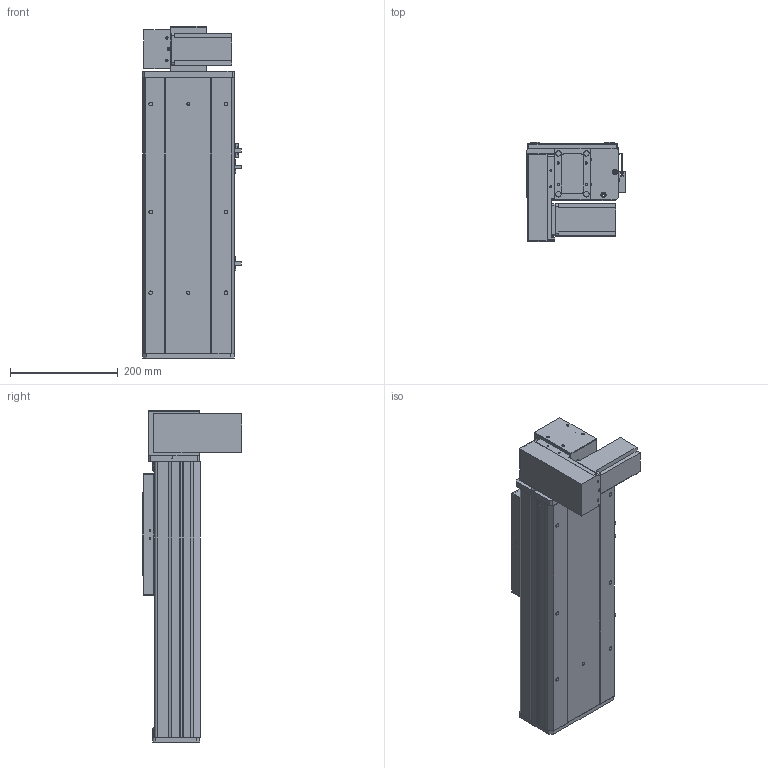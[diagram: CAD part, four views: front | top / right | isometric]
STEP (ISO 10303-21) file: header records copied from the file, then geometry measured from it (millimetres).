
FILE_DESCRIPTION (( 'STEP AP203' ), '1' );
FILE_NAME ('Y170CB-D105-S200-BM-P400W.STEP', '2020-02-20T06:07:22', ( '微软用户' ), ( '微软中国' ), 'SwSTEP 2.0', 'SolidWorks 2017', '' );
FILE_SCHEMA (( 'CONFIG_CONTROL_DESIGN' ));
Length unit declared in the file: millimetre
Products named in the file (18): 70C--詩湍揤踡え-; 17B-耜蚾蟀諉啣----; 70CB--耜裔; 00B-俋欶BM--163; 70C-雄赽釱-奻-; B-源倛裔啣; 70B喘謫眊----; 0C--雄赽釱俋欶-170; 0B-萇儂楊擘啣; Y170CB-D105-S200-BM-P400W; 70CB-詩湍--; san松下电机400不带刹车----; Y100-135俋离換覜ん--; 70CB-掛极-; Y170CB-陔俋离換覜結え---; --70CB --喘謫眊楊擘啣-; Y1埴倛裔; 70CB-耜裔啣-
Assembly tree (21 placements, depth 2):
  Y170CB-D105-S200-BM-P400W
    B-源倛裔啣
    0B-萇儂楊擘啣
    san松下电机400不带刹车----
    70CB-掛极-
    --70CB --喘謫眊楊擘啣-
    70CB-耜裔啣-  x2
    70C--詩湍揤踡え-  x2
    70CB--耜裔
    70C-雄赽釱-奻-
    0C--雄赽釱俋欶-170
    70CB-詩湍--
    Y100-135俋离換覜ん--  x3
    Y170CB-陔俋离換覜結え---
    Y1埴倛裔
    17B-耜蚾蟀諉啣----
    00B-俋欶BM--163
    70B喘謫眊----
Bounding box: 183.5 x 184 x 616 mm (x, y, z)
Volume: 3389697 mm3; surface area: 1196874 mm2
Topology: 21 solids, 21 shells, 975 faces, 2597 edges, 1722 vertices
Faces by surface type: cylinder 489, plane 462, cone 24
Entity records: 30868 total; most frequent: CARTESIAN_POINT 5616, DIRECTION 5018, ORIENTED_EDGE 4676, EDGE_CURVE 2338, AXIS2_PLACEMENT_3D 1828, VERTEX_POINT 1552, LINE 1362, VECTOR 1362
